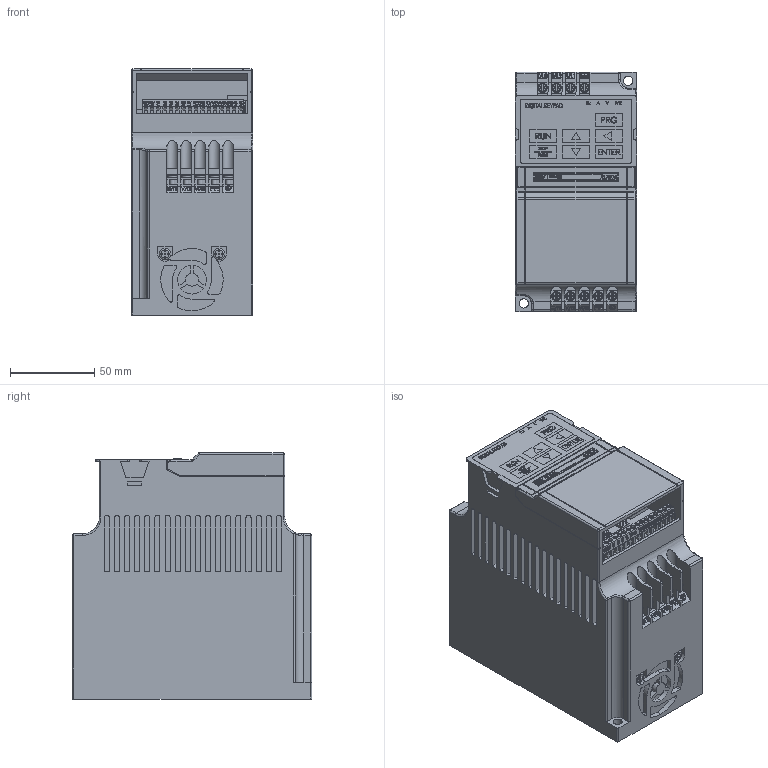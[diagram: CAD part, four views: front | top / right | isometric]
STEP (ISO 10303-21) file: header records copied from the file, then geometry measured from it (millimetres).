
FILE_DESCRIPTION (( 'STEP AP203' ), '1' );
FILE_NAME ('IF20-201-1.STEP', '2018-11-28T18:37:36', ( '' ), ( '' ), 'SwSTEP 2.0', 'SolidWorks 2012', '' );
FILE_SCHEMA (( 'CONFIG_CONTROL_DESIGN' ));
Products named in the file (1): IF20-201-1
Bounding box: 72 x 142.02 x 146 mm (x, y, z)
Volume: 1230879.5 mm3; surface area: 110518.5 mm2
Topology: 1 solids, 1 shells, 3031 faces, 8044 edges, 5334 vertices
Faces by surface type: plane 2176, bspline 525, cylinder 284, torus 36, sphere 10
Entity records: 121449 total; most frequent: CARTESIAN_POINT 48878, ORIENTED_EDGE 16072, DIRECTION 12688, EDGE_CURVE 8036, LINE 6248, VECTOR 6248, VERTEX_POINT 5334, EDGE_LOOP 3398
